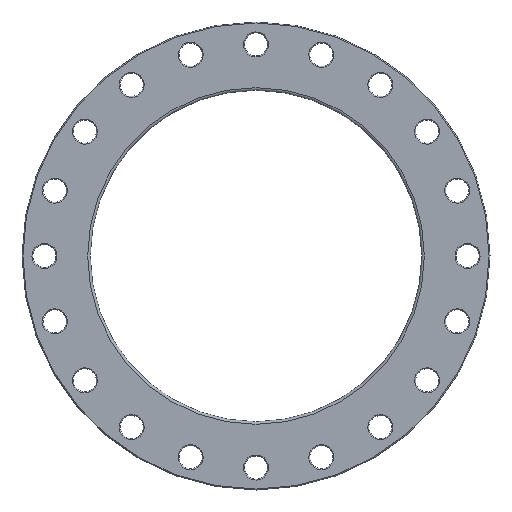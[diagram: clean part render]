
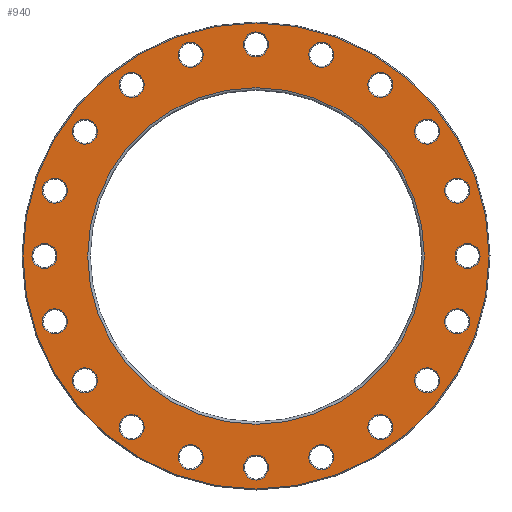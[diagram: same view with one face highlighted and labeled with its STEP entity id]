
A CAD part, front view. The second image highlights one B-rep face of the part: STEP entity #940.
In plain terms, the highlighted planar face has unit normal (0, -1, 0).
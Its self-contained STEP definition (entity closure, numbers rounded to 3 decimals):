
#23=PLANE('',#1104);
#206=ORIENTED_EDGE('',*,*,#325,.T.);
#207=ORIENTED_EDGE('',*,*,#326,.T.);
#208=ORIENTED_EDGE('',*,*,#244,.T.);
#209=ORIENTED_EDGE('',*,*,#248,.T.);
#210=ORIENTED_EDGE('',*,*,#252,.T.);
#211=ORIENTED_EDGE('',*,*,#256,.T.);
#212=ORIENTED_EDGE('',*,*,#260,.T.);
#213=ORIENTED_EDGE('',*,*,#264,.T.);
#214=ORIENTED_EDGE('',*,*,#268,.T.);
#215=ORIENTED_EDGE('',*,*,#272,.T.);
#216=ORIENTED_EDGE('',*,*,#276,.T.);
#217=ORIENTED_EDGE('',*,*,#280,.T.);
#218=ORIENTED_EDGE('',*,*,#284,.T.);
#219=ORIENTED_EDGE('',*,*,#288,.T.);
#220=ORIENTED_EDGE('',*,*,#292,.T.);
#221=ORIENTED_EDGE('',*,*,#296,.T.);
#222=ORIENTED_EDGE('',*,*,#300,.T.);
#223=ORIENTED_EDGE('',*,*,#304,.T.);
#224=ORIENTED_EDGE('',*,*,#308,.T.);
#225=ORIENTED_EDGE('',*,*,#312,.T.);
#226=ORIENTED_EDGE('',*,*,#316,.T.);
#227=ORIENTED_EDGE('',*,*,#327,.T.);
#244=EDGE_CURVE('',#332,#332,#420,.T.);
#248=EDGE_CURVE('',#336,#336,#424,.T.);
#252=EDGE_CURVE('',#340,#340,#428,.T.);
#256=EDGE_CURVE('',#344,#344,#432,.T.);
#260=EDGE_CURVE('',#348,#348,#436,.T.);
#264=EDGE_CURVE('',#352,#352,#440,.T.);
#268=EDGE_CURVE('',#356,#356,#444,.T.);
#272=EDGE_CURVE('',#360,#360,#448,.T.);
#276=EDGE_CURVE('',#364,#364,#452,.T.);
#280=EDGE_CURVE('',#368,#368,#456,.T.);
#284=EDGE_CURVE('',#372,#372,#460,.T.);
#288=EDGE_CURVE('',#376,#376,#464,.T.);
#292=EDGE_CURVE('',#380,#380,#468,.T.);
#296=EDGE_CURVE('',#384,#384,#472,.T.);
#300=EDGE_CURVE('',#388,#388,#476,.T.);
#304=EDGE_CURVE('',#392,#392,#480,.T.);
#308=EDGE_CURVE('',#396,#396,#484,.T.);
#312=EDGE_CURVE('',#400,#400,#488,.T.);
#316=EDGE_CURVE('',#404,#404,#492,.T.);
#325=EDGE_CURVE('',#413,#413,#501,.F.);
#326=EDGE_CURVE('',#414,#414,#502,.T.);
#327=EDGE_CURVE('',#415,#415,#503,.T.);
#332=VERTEX_POINT('',#1439);
#336=VERTEX_POINT('',#1450);
#340=VERTEX_POINT('',#1461);
#344=VERTEX_POINT('',#1472);
#348=VERTEX_POINT('',#1483);
#352=VERTEX_POINT('',#1494);
#356=VERTEX_POINT('',#1505);
#360=VERTEX_POINT('',#1516);
#364=VERTEX_POINT('',#1527);
#368=VERTEX_POINT('',#1538);
#372=VERTEX_POINT('',#1549);
#376=VERTEX_POINT('',#1560);
#380=VERTEX_POINT('',#1571);
#384=VERTEX_POINT('',#1582);
#388=VERTEX_POINT('',#1593);
#392=VERTEX_POINT('',#1604);
#396=VERTEX_POINT('',#1615);
#400=VERTEX_POINT('',#1626);
#404=VERTEX_POINT('',#1637);
#413=VERTEX_POINT('',#1660);
#414=VERTEX_POINT('',#1662);
#415=VERTEX_POINT('',#1664);
#420=CIRCLE('',#965,19.5);
#424=CIRCLE('',#972,19.5);
#428=CIRCLE('',#979,19.5);
#432=CIRCLE('',#986,19.5);
#436=CIRCLE('',#993,19.5);
#440=CIRCLE('',#1000,19.5);
#444=CIRCLE('',#1007,19.5);
#448=CIRCLE('',#1014,19.5);
#452=CIRCLE('',#1021,19.5);
#456=CIRCLE('',#1028,19.5);
#460=CIRCLE('',#1035,19.5);
#464=CIRCLE('',#1042,19.5);
#468=CIRCLE('',#1049,19.5);
#472=CIRCLE('',#1056,19.5);
#476=CIRCLE('',#1063,19.5);
#480=CIRCLE('',#1070,19.5);
#484=CIRCLE('',#1077,19.5);
#488=CIRCLE('',#1084,19.5);
#492=CIRCLE('',#1091,19.5);
#501=CIRCLE('',#1105,363.5);
#502=CIRCLE('',#1106,262.5);
#503=CIRCLE('',#1107,19.5);
#646=EDGE_LOOP('',(#206));
#647=EDGE_LOOP('',(#207));
#648=EDGE_LOOP('',(#208));
#649=EDGE_LOOP('',(#209));
#650=EDGE_LOOP('',(#210));
#651=EDGE_LOOP('',(#211));
#652=EDGE_LOOP('',(#212));
#653=EDGE_LOOP('',(#213));
#654=EDGE_LOOP('',(#214));
#655=EDGE_LOOP('',(#215));
#656=EDGE_LOOP('',(#216));
#657=EDGE_LOOP('',(#217));
#658=EDGE_LOOP('',(#218));
#659=EDGE_LOOP('',(#219));
#660=EDGE_LOOP('',(#220));
#661=EDGE_LOOP('',(#221));
#662=EDGE_LOOP('',(#222));
#663=EDGE_LOOP('',(#223));
#664=EDGE_LOOP('',(#224));
#665=EDGE_LOOP('',(#225));
#666=EDGE_LOOP('',(#226));
#667=EDGE_LOOP('',(#227));
#822=FACE_BOUND('',#646,.T.);
#823=FACE_BOUND('',#647,.T.);
#824=FACE_BOUND('',#648,.T.);
#825=FACE_BOUND('',#649,.T.);
#826=FACE_BOUND('',#650,.T.);
#827=FACE_BOUND('',#651,.T.);
#828=FACE_BOUND('',#652,.T.);
#829=FACE_BOUND('',#653,.T.);
#830=FACE_BOUND('',#654,.T.);
#831=FACE_BOUND('',#655,.T.);
#832=FACE_BOUND('',#656,.T.);
#833=FACE_BOUND('',#657,.T.);
#834=FACE_BOUND('',#658,.T.);
#835=FACE_BOUND('',#659,.T.);
#836=FACE_BOUND('',#660,.T.);
#837=FACE_BOUND('',#661,.T.);
#838=FACE_BOUND('',#662,.T.);
#839=FACE_BOUND('',#663,.T.);
#840=FACE_BOUND('',#664,.T.);
#841=FACE_BOUND('',#665,.T.);
#842=FACE_BOUND('',#666,.T.);
#843=FACE_BOUND('',#667,.T.);
#940=ADVANCED_FACE('',(#822,#823,#824,#825,#826,#827,#828,#829,#830,#831,
#832,#833,#834,#835,#836,#837,#838,#839,#840,#841,#842,#843),#23,.F.);
#965=AXIS2_PLACEMENT_3D('',#1438,#1127,#1128);
#972=AXIS2_PLACEMENT_3D('',#1449,#1141,#1142);
#979=AXIS2_PLACEMENT_3D('',#1460,#1155,#1156);
#986=AXIS2_PLACEMENT_3D('',#1471,#1169,#1170);
#993=AXIS2_PLACEMENT_3D('',#1482,#1183,#1184);
#1000=AXIS2_PLACEMENT_3D('',#1493,#1197,#1198);
#1007=AXIS2_PLACEMENT_3D('',#1504,#1211,#1212);
#1014=AXIS2_PLACEMENT_3D('',#1515,#1225,#1226);
#1021=AXIS2_PLACEMENT_3D('',#1526,#1239,#1240);
#1028=AXIS2_PLACEMENT_3D('',#1537,#1253,#1254);
#1035=AXIS2_PLACEMENT_3D('',#1548,#1267,#1268);
#1042=AXIS2_PLACEMENT_3D('',#1559,#1281,#1282);
#1049=AXIS2_PLACEMENT_3D('',#1570,#1295,#1296);
#1056=AXIS2_PLACEMENT_3D('',#1581,#1309,#1310);
#1063=AXIS2_PLACEMENT_3D('',#1592,#1323,#1324);
#1070=AXIS2_PLACEMENT_3D('',#1603,#1337,#1338);
#1077=AXIS2_PLACEMENT_3D('',#1614,#1351,#1352);
#1084=AXIS2_PLACEMENT_3D('',#1625,#1365,#1366);
#1091=AXIS2_PLACEMENT_3D('',#1636,#1379,#1380);
#1104=AXIS2_PLACEMENT_3D('',#1658,#1405,#1406);
#1105=AXIS2_PLACEMENT_3D('',#1659,#1407,#1408);
#1106=AXIS2_PLACEMENT_3D('',#1661,#1409,#1410);
#1107=AXIS2_PLACEMENT_3D('',#1663,#1411,#1412);
#1127=DIRECTION('',(0.,1.,0.));
#1128=DIRECTION('',(0.951,0.,0.309));
#1141=DIRECTION('',(0.,1.,0.));
#1142=DIRECTION('',(0.809,0.,0.588));
#1155=DIRECTION('',(0.,1.,0.));
#1156=DIRECTION('',(0.588,0.,0.809));
#1169=DIRECTION('',(0.,1.,0.));
#1170=DIRECTION('',(0.309,0.,0.951));
#1183=DIRECTION('',(0.,1.,0.));
#1184=DIRECTION('',(0.,0.,1.));
#1197=DIRECTION('',(0.,1.,0.));
#1198=DIRECTION('',(-0.309,0.,0.951));
#1211=DIRECTION('',(0.,1.,0.));
#1212=DIRECTION('',(-0.588,0.,0.809));
#1225=DIRECTION('',(0.,1.,0.));
#1226=DIRECTION('',(-0.809,0.,0.588));
#1239=DIRECTION('',(0.,1.,0.));
#1240=DIRECTION('',(-0.951,0.,0.309));
#1253=DIRECTION('',(0.,1.,0.));
#1254=DIRECTION('',(-1.,0.,0.));
#1267=DIRECTION('',(0.,1.,0.));
#1268=DIRECTION('',(-0.951,0.,-0.309));
#1281=DIRECTION('',(0.,1.,0.));
#1282=DIRECTION('',(-0.809,0.,-0.588));
#1295=DIRECTION('',(0.,1.,0.));
#1296=DIRECTION('',(-0.588,0.,-0.809));
#1309=DIRECTION('',(0.,1.,0.));
#1310=DIRECTION('',(-0.309,0.,-0.951));
#1323=DIRECTION('',(0.,1.,0.));
#1324=DIRECTION('',(0.,0.,-1.));
#1337=DIRECTION('',(0.,1.,0.));
#1338=DIRECTION('',(0.309,0.,-0.951));
#1351=DIRECTION('',(0.,1.,0.));
#1352=DIRECTION('',(0.588,0.,-0.809));
#1365=DIRECTION('',(0.,1.,0.));
#1366=DIRECTION('',(0.809,0.,-0.588));
#1379=DIRECTION('',(0.,1.,0.));
#1380=DIRECTION('',(0.951,0.,-0.309));
#1405=DIRECTION('',(0.,1.,0.));
#1406=DIRECTION('',(0.,0.,1.));
#1407=DIRECTION('',(0.,1.,0.));
#1408=DIRECTION('',(0.,0.,1.));
#1409=DIRECTION('',(0.,1.,0.));
#1410=DIRECTION('',(0.,0.,1.));
#1411=DIRECTION('',(0.,1.,0.));
#1412=DIRECTION('',(1.,0.,0.));
#1438=CARTESIAN_POINT('',(-101.976,0.,313.849));
#1439=CARTESIAN_POINT('',(-83.43,0.,319.874));
#1449=CARTESIAN_POINT('',(-193.969,0.,266.976));
#1450=CARTESIAN_POINT('',(-178.193,0.,278.437));
#1460=CARTESIAN_POINT('',(-266.976,0.,193.969));
#1461=CARTESIAN_POINT('',(-255.514,0.,209.745));
#1471=CARTESIAN_POINT('',(-313.849,0.,101.976));
#1472=CARTESIAN_POINT('',(-307.823,0.,120.521));
#1482=CARTESIAN_POINT('',(-330.,0.,0.));
#1483=CARTESIAN_POINT('',(-330.,0.,19.5));
#1493=CARTESIAN_POINT('',(-313.849,0.,-101.976));
#1494=CARTESIAN_POINT('',(-319.874,0.,-83.43));
#1504=CARTESIAN_POINT('',(-266.976,0.,-193.969));
#1505=CARTESIAN_POINT('',(-278.437,0.,-178.193));
#1515=CARTESIAN_POINT('',(-193.969,0.,-266.976));
#1516=CARTESIAN_POINT('',(-209.745,0.,-255.514));
#1526=CARTESIAN_POINT('',(-101.976,0.,-313.849));
#1527=CARTESIAN_POINT('',(-120.521,0.,-307.823));
#1537=CARTESIAN_POINT('',(0.,0.,-330.));
#1538=CARTESIAN_POINT('',(-19.5,0.,-330.));
#1548=CARTESIAN_POINT('',(101.976,0.,-313.849));
#1549=CARTESIAN_POINT('',(83.43,0.,-319.874));
#1559=CARTESIAN_POINT('',(193.969,0.,-266.976));
#1560=CARTESIAN_POINT('',(178.193,0.,-278.437));
#1570=CARTESIAN_POINT('',(266.976,0.,-193.969));
#1571=CARTESIAN_POINT('',(255.514,0.,-209.745));
#1581=CARTESIAN_POINT('',(313.849,0.,-101.976));
#1582=CARTESIAN_POINT('',(307.823,0.,-120.521));
#1592=CARTESIAN_POINT('',(330.,0.,0.));
#1593=CARTESIAN_POINT('',(330.,0.,-19.5));
#1603=CARTESIAN_POINT('',(313.849,0.,101.976));
#1604=CARTESIAN_POINT('',(319.874,0.,83.43));
#1614=CARTESIAN_POINT('',(266.976,0.,193.969));
#1615=CARTESIAN_POINT('',(278.437,0.,178.193));
#1625=CARTESIAN_POINT('',(193.969,0.,266.976));
#1626=CARTESIAN_POINT('',(209.745,0.,255.514));
#1636=CARTESIAN_POINT('',(101.976,0.,313.849));
#1637=CARTESIAN_POINT('',(120.521,0.,307.823));
#1658=CARTESIAN_POINT('',(0.,0.,0.));
#1659=CARTESIAN_POINT('',(0.,0.,0.));
#1660=CARTESIAN_POINT('',(0.,0.,363.5));
#1661=CARTESIAN_POINT('',(0.,0.,0.));
#1662=CARTESIAN_POINT('',(0.,0.,262.5));
#1663=CARTESIAN_POINT('',(0.,0.,330.));
#1664=CARTESIAN_POINT('',(19.5,0.,330.));
